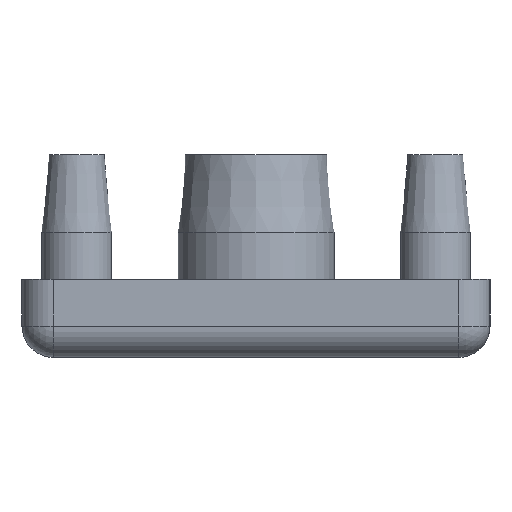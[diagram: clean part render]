
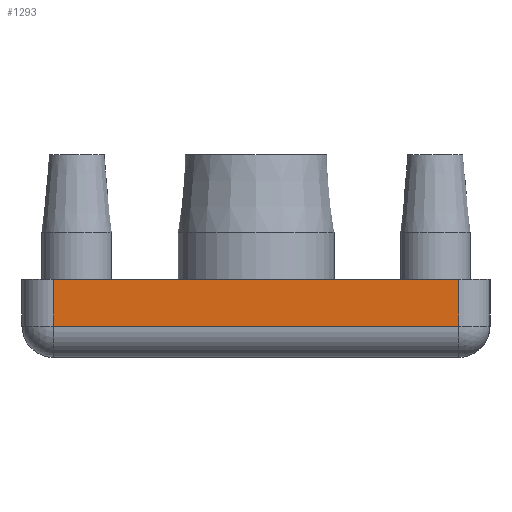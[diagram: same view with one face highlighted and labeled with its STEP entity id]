
A CAD part, left-side view. The second image highlights one B-rep face of the part: STEP entity #1293.
In plain terms, the highlighted planar face has unit normal (-1, 0, 0).
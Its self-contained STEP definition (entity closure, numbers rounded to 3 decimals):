
#35=PLANE('',#1454);
#96=FACE_OUTER_BOUND('',#189,.T.);
#189=EDGE_LOOP('',(#976,#977,#978,#979));
#294=LINE('',#2188,#391);
#295=LINE('',#2190,#392);
#296=LINE('',#2192,#393);
#297=LINE('',#2193,#394);
#391=VECTOR('',#1745,1000.);
#392=VECTOR('',#1746,1000.);
#393=VECTOR('',#1747,1000.);
#394=VECTOR('',#1748,1000.);
#613=VERTEX_POINT('',#2186);
#614=VERTEX_POINT('',#2187);
#615=VERTEX_POINT('',#2189);
#616=VERTEX_POINT('',#2191);
#753=EDGE_CURVE('',#613,#614,#294,.T.);
#754=EDGE_CURVE('',#614,#615,#295,.T.);
#755=EDGE_CURVE('',#615,#616,#296,.T.);
#756=EDGE_CURVE('',#613,#616,#297,.T.);
#976=ORIENTED_EDGE('',*,*,#753,.T.);
#977=ORIENTED_EDGE('',*,*,#754,.T.);
#978=ORIENTED_EDGE('',*,*,#755,.T.);
#979=ORIENTED_EDGE('',*,*,#756,.F.);
#1293=ADVANCED_FACE('',(#96),#35,.F.);
#1454=AXIS2_PLACEMENT_3D('',#2185,#1743,#1744);
#1743=DIRECTION('center_axis',(1.,0.,0.));
#1744=DIRECTION('ref_axis',(0.,0.,-1.));
#1745=DIRECTION('',(0.,0.,-1.));
#1746=DIRECTION('',(0.,-1.,0.));
#1747=DIRECTION('',(0.,0.,1.));
#1748=DIRECTION('',(0.,-1.,0.));
#2185=CARTESIAN_POINT('Origin',(-99.594,36.17,5.));
#2186=CARTESIAN_POINT('',(-99.594,34.17,5.));
#2187=CARTESIAN_POINT('',(-99.594,34.17,2.));
#2188=CARTESIAN_POINT('',(-99.594,34.17,5.));
#2189=CARTESIAN_POINT('',(-99.594,8.17,2.));
#2190=CARTESIAN_POINT('',(-99.594,36.17,2.));
#2191=CARTESIAN_POINT('',(-99.594,8.17,5.));
#2192=CARTESIAN_POINT('',(-99.594,8.17,5.));
#2193=CARTESIAN_POINT('',(-99.594,36.17,5.));
